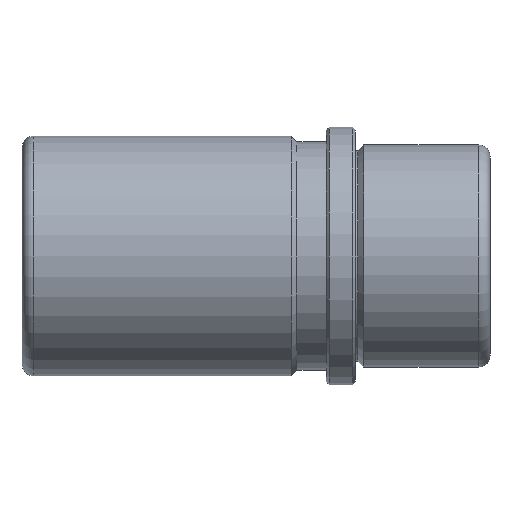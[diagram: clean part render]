
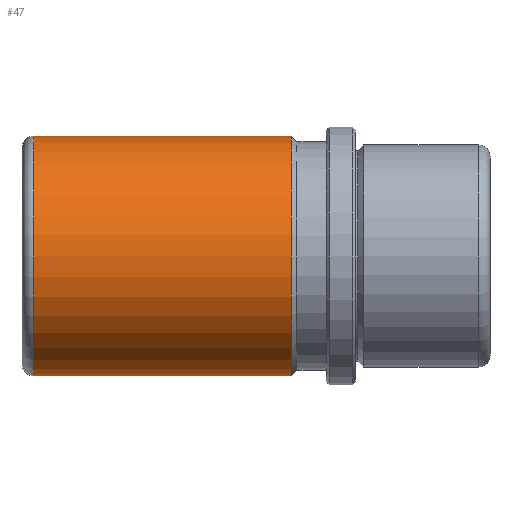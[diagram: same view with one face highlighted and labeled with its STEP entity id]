
A CAD part, front view. The second image highlights one B-rep face of the part: STEP entity #47.
In plain terms, the highlighted cylindrical face has radius 20.5 mm (diameter 41 mm), a full revolution.
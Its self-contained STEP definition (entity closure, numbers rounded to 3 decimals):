
#47 = ADVANCED_FACE( '', ( #108, #109, #110 ), #111, .T. );
#108 = FACE_OUTER_BOUND( '', #201, .T. );
#109 = FACE_BOUND( '', #202, .T. );
#110 = FACE_OUTER_BOUND( '', #203, .T. );
#111 = CYLINDRICAL_SURFACE( '', #204, 20.5 );
#201 = EDGE_LOOP( '', ( #290 ) );
#202 = EDGE_LOOP( '', ( #291 ) );
#203 = EDGE_LOOP( '', ( #292 ) );
#204 = AXIS2_PLACEMENT_3D( '', #293, #294, #295 );
#290 = ORIENTED_EDGE( '', *, *, #415, .T. );
#291 = ORIENTED_EDGE( '', *, *, #416, .T. );
#292 = ORIENTED_EDGE( '', *, *, #417, .F. );
#293 = CARTESIAN_POINT( '', ( 23., 0., 0. ) );
#294 = DIRECTION( '', ( -1., 0., 0. ) );
#295 = DIRECTION( '', ( 0., 0., -1. ) );
#415 = EDGE_CURVE( '', #460, #460, #461, .T. );
#416 = EDGE_CURVE( '', #462, #462, #463, .T. );
#417 = EDGE_CURVE( '', #464, #464, #465, .T. );
#460 = VERTEX_POINT( '', #525 );
#461 = CIRCLE( '', #526, 20.5 );
#462 = VERTEX_POINT( '', #527 );
#463 = B_SPLINE_CURVE_WITH_KNOTS( '', 3, ( #528, #529, #530, #531, #532, #533, #534, #535, #536, #537, #538, #539, #540, #541, #542, #543, #544, #545, #546, #547, #548, #549, #550, #551, #552, #553, #554, #555, #556, #557, #558, #559, #560, #561, #562, #563, #564, #565, #566, #567, #568, #569, #570, #571, #572, #573, #574, #575, #576, #577, #578, #579, #580, #581, #582, #583, #584, #585, #586, #587, #588, #589, #590, #591, #592, #593 ), .UNSPECIFIED., .T., .F., ( 2, 2, 2, 2, 2, 2, 2, 2, 2, 2, 2, 2, 2, 2, 2, 2, 2, 2, 2, 2, 2, 2, 2, 2, 2, 2, 2, 2, 2, 2, 2, 2, 2, 2, 2 ), ( -0.001, 0., 0.001, 0.002, 0.002, 0.003, 0.004, 0.005, 0.006, 0.007, 0.007, 0.008, 0.009, 0.01, 0.011, 0.011, 0.012, 0.013, 0.014, 0.015, 0.016, 0.016, 0.017, 0.018, 0.019, 0.02, 0.021, 0.021, 0.022, 0.023, 0.024, 0.025, 0.025, 0.026, 0.027 ), .UNSPECIFIED. );
#464 = VERTEX_POINT( '', #594 );
#465 = CIRCLE( '', #595, 20.5 );
#525 = CARTESIAN_POINT( '', ( -55., 0., -20.5 ) );
#526 = AXIS2_PLACEMENT_3D( '', #718, #719, #720 );
#527 = CARTESIAN_POINT( '', ( -18., 20.068, -4.188 ) );
#528 = CARTESIAN_POINT( '', ( -18.277, 20.068, -4.188 ) );
#529 = CARTESIAN_POINT( '', ( -17.723, 20.068, -4.188 ) );
#530 = CARTESIAN_POINT( '', ( -17.45, 20.073, -4.161 ) );
#531 = CARTESIAN_POINT( '', ( -16.914, 20.095, -4.054 ) );
#532 = CARTESIAN_POINT( '', ( -16.647, 20.112, -3.973 ) );
#533 = CARTESIAN_POINT( '', ( -16.14, 20.152, -3.763 ) );
#534 = CARTESIAN_POINT( '', ( -15.9, 20.176, -3.634 ) );
#535 = CARTESIAN_POINT( '', ( -15.446, 20.228, -3.33 ) );
#536 = CARTESIAN_POINT( '', ( -15.231, 20.257, -3.154 ) );
#537 = CARTESIAN_POINT( '', ( -14.846, 20.313, -2.768 ) );
#538 = CARTESIAN_POINT( '', ( -14.673, 20.341, -2.558 ) );
#539 = CARTESIAN_POINT( '', ( -14.366, 20.393, -2.101 ) );
#540 = CARTESIAN_POINT( '', ( -14.237, 20.417, -1.858 ) );
#541 = CARTESIAN_POINT( '', ( -14.028, 20.457, -1.354 ) );
#542 = CARTESIAN_POINT( '', ( -13.947, 20.473, -1.09 ) );
#543 = CARTESIAN_POINT( '', ( -13.839, 20.494, -0.549 ) );
#544 = CARTESIAN_POINT( '', ( -13.812, 20.5, -0.276 ) );
#545 = CARTESIAN_POINT( '', ( -13.812, 20.5, 0.271 ) );
#546 = CARTESIAN_POINT( '', ( -13.839, 20.494, 0.55 ) );
#547 = CARTESIAN_POINT( '', ( -13.946, 20.473, 1.087 ) );
#548 = CARTESIAN_POINT( '', ( -14.026, 20.457, 1.349 ) );
#549 = CARTESIAN_POINT( '', ( -14.236, 20.417, 1.857 ) );
#550 = CARTESIAN_POINT( '', ( -14.367, 20.393, 2.101 ) );
#551 = CARTESIAN_POINT( '', ( -14.67, 20.342, 2.554 ) );
#552 = CARTESIAN_POINT( '', ( -14.844, 20.313, 2.766 ) );
#553 = CARTESIAN_POINT( '', ( -15.233, 20.257, 3.155 ) );
#554 = CARTESIAN_POINT( '', ( -15.443, 20.229, 3.328 ) );
#555 = CARTESIAN_POINT( '', ( -15.896, 20.176, 3.631 ) );
#556 = CARTESIAN_POINT( '', ( -16.141, 20.152, 3.763 ) );
#557 = CARTESIAN_POINT( '', ( -16.647, 20.112, 3.973 ) );
#558 = CARTESIAN_POINT( '', ( -16.908, 20.096, 4.053 ) );
#559 = CARTESIAN_POINT( '', ( -17.447, 20.073, 4.16 ) );
#560 = CARTESIAN_POINT( '', ( -17.725, 20.068, 4.188 ) );
#561 = CARTESIAN_POINT( '', ( -18.272, 20.068, 4.188 ) );
#562 = CARTESIAN_POINT( '', ( -18.545, 20.073, 4.162 ) );
#563 = CARTESIAN_POINT( '', ( -19.087, 20.095, 4.054 ) );
#564 = CARTESIAN_POINT( '', ( -19.35, 20.111, 3.974 ) );
#565 = CARTESIAN_POINT( '', ( -19.855, 20.152, 3.765 ) );
#566 = CARTESIAN_POINT( '', ( -20.099, 20.176, 3.634 ) );
#567 = CARTESIAN_POINT( '', ( -20.555, 20.228, 3.33 ) );
#568 = CARTESIAN_POINT( '', ( -20.766, 20.256, 3.157 ) );
#569 = CARTESIAN_POINT( '', ( -21.152, 20.313, 2.771 ) );
#570 = CARTESIAN_POINT( '', ( -21.329, 20.341, 2.556 ) );
#571 = CARTESIAN_POINT( '', ( -21.632, 20.393, 2.103 ) );
#572 = CARTESIAN_POINT( '', ( -21.761, 20.417, 1.863 ) );
#573 = CARTESIAN_POINT( '', ( -21.972, 20.457, 1.355 ) );
#574 = CARTESIAN_POINT( '', ( -22.053, 20.473, 1.09 ) );
#575 = CARTESIAN_POINT( '', ( -22.16, 20.494, 0.554 ) );
#576 = CARTESIAN_POINT( '', ( -22.188, 20.5, 0.279 ) );
#577 = CARTESIAN_POINT( '', ( -22.188, 20.5, -0.274 ) );
#578 = CARTESIAN_POINT( '', ( -22.161, 20.494, -0.546 ) );
#579 = CARTESIAN_POINT( '', ( -22.055, 20.473, -1.083 ) );
#580 = CARTESIAN_POINT( '', ( -21.974, 20.457, -1.35 ) );
#581 = CARTESIAN_POINT( '', ( -21.764, 20.417, -1.856 ) );
#582 = CARTESIAN_POINT( '', ( -21.636, 20.394, -2.097 ) );
#583 = CARTESIAN_POINT( '', ( -21.331, 20.342, -2.553 ) );
#584 = CARTESIAN_POINT( '', ( -21.156, 20.313, -2.767 ) );
#585 = CARTESIAN_POINT( '', ( -20.771, 20.257, -3.152 ) );
#586 = CARTESIAN_POINT( '', ( -20.56, 20.229, -3.326 ) );
#587 = CARTESIAN_POINT( '', ( -20.102, 20.176, -3.633 ) );
#588 = CARTESIAN_POINT( '', ( -19.861, 20.152, -3.762 ) );
#589 = CARTESIAN_POINT( '', ( -19.358, 20.112, -3.971 ) );
#590 = CARTESIAN_POINT( '', ( -19.092, 20.096, -4.053 ) );
#591 = CARTESIAN_POINT( '', ( -18.551, 20.073, -4.161 ) );
#592 = CARTESIAN_POINT( '', ( -18.277, 20.068, -4.188 ) );
#593 = CARTESIAN_POINT( '', ( -17.723, 20.068, -4.188 ) );
#594 = CARTESIAN_POINT( '', ( -11., 0., -20.5 ) );
#595 = AXIS2_PLACEMENT_3D( '', #721, #722, #723 );
#718 = CARTESIAN_POINT( '', ( -55., 0., 0. ) );
#719 = DIRECTION( '', ( 1., 0., 0. ) );
#720 = DIRECTION( '', ( 0., 0., -1. ) );
#721 = CARTESIAN_POINT( '', ( -11., 0., 0. ) );
#722 = DIRECTION( '', ( 1., 0., 0. ) );
#723 = DIRECTION( '', ( 0., 0., -1. ) );
